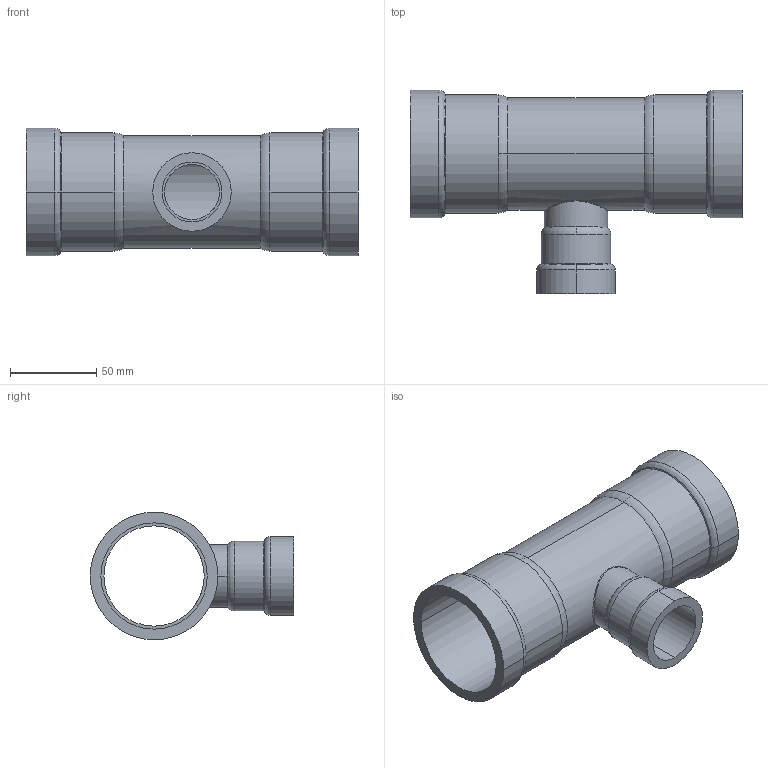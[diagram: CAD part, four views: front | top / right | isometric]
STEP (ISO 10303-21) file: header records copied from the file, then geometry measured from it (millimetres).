
FILE_DESCRIPTION(('Creo Elements/Direct Modeling STEP Export'),'2;1');
FILE_NAME('C9415_2_1_2.stp','2020-07-15T10:27:06',(''),(''),'PTC Creo Elements/Direct Modeling STEP processor for AP214 (Solid Model)','PTC Creo Elements/Direct Modeling 19.0C 15-Aug-2015 (C) Parametric Technology GmbH','');
FILE_SCHEMA(('AUTOMOTIVE_DESIGN { 1 0 10303 214 1 1 1 1 }'));
Length unit declared in the file: millimetre
Products named in the file (2): C9415_2_1_2
Assembly tree (1 placements, depth 2):
  C9415_2_1_2
    C9415_2_1_2
Bounding box: 192.02 x 117.7 x 73.8 mm (x, y, z)
Volume: 174428.5 mm3; surface area: 92426.9 mm2
Topology: 1 solids, 1 shells, 54 faces, 126 edges, 78 vertices
Faces by surface type: cylinder 26, torus 12, plane 6, cone 6, bspline 4
Entity records: 5578 total; most frequent: CARTESIAN_POINT 4437, ORIENTED_EDGE 252, DIRECTION 214, EDGE_CURVE 126, AXIS2_PLACEMENT_3D 91, VERTEX_POINT 78, EDGE_LOOP 62, FACE_OUTER_BOUND 54
